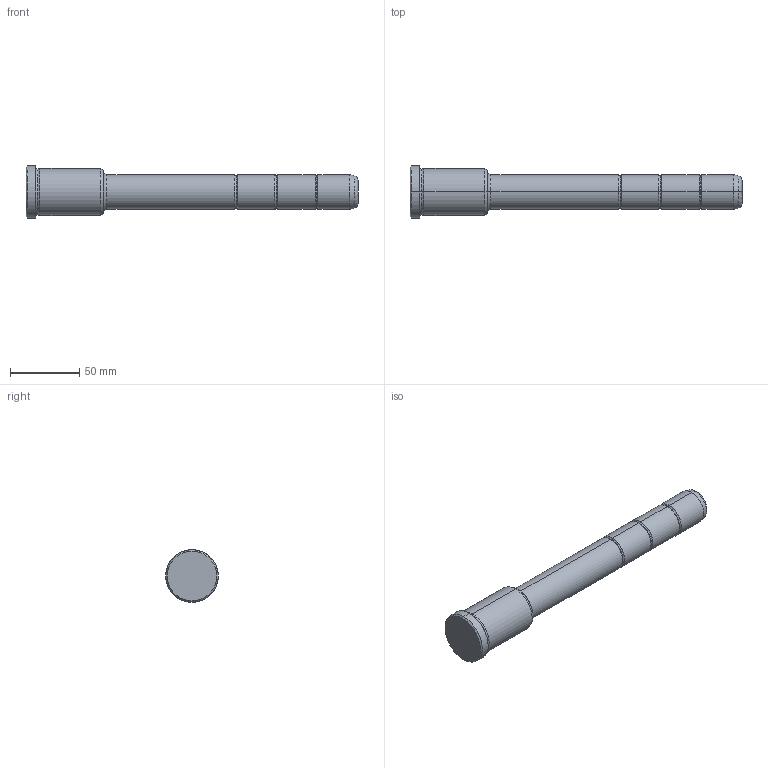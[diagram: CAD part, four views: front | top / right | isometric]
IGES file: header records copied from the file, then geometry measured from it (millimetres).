
Start section: START RECORD GO HERE.
Global section: file name: 351-25X56X240.igs; native system: DASSAULT SYSTEMES CATIA V5 R20 - www.3ds.com; preprocessor: CATIA Version 5 Release 20 ; author: Utente; organization: NB04-ASUS; date: 20210907.121221; units: millimetre
Bounding box: 240 x 38 x 38 mm (x, y, z)
Surface area: 22530.4 mm2 (no closed solid volume)
Topology: 0 solids, 0 shells, 42 faces, 236 edges, 236 vertices
Faces by surface type: revolution 38, plane 4
